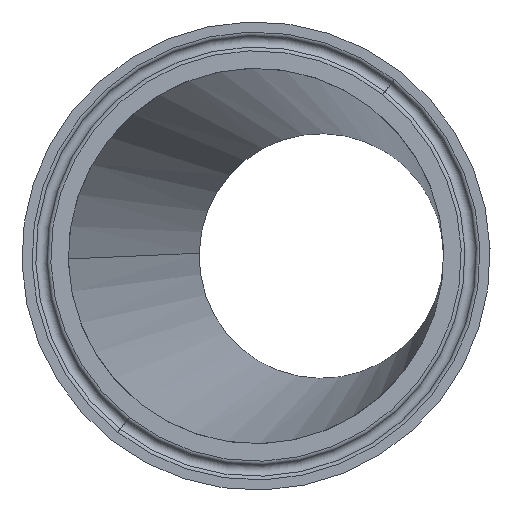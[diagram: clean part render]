
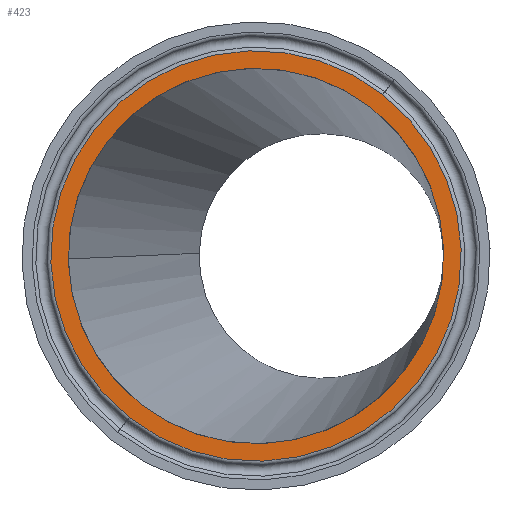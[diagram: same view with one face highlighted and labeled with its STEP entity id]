
A CAD part, left-side view. The second image highlights one B-rep face of the part: STEP entity #423.
In plain terms, the highlighted planar face has unit normal (-1, 0, 0) as drawn and (0, -1, 0) by its records, which use the part's own axes.
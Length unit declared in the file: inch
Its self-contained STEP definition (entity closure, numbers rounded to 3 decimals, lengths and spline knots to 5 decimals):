
#28 = AXIS2_PLACEMENT_3D ( 'NONE', #495, #73, #1026 ) ;
#61 = DIRECTION ( 'NONE',  ( 0., 0., -1. ) ) ;
#66 = DIRECTION ( 'NONE',  ( 0., 1., 0. ) ) ;
#73 = DIRECTION ( 'NONE',  ( 0., -1., 0. ) ) ;
#83 = DIRECTION ( 'NONE',  ( 0., 0., -1. ) ) ;
#91 = AXIS2_PLACEMENT_3D ( 'NONE', #444, #1319, #83 ) ;
#175 = CARTESIAN_POINT ( 'NONE',  ( 0., 0., -1.56892 ) ) ;
#249 = CARTESIAN_POINT ( 'NONE',  ( 0., 0., 0. ) ) ;
#283 = CARTESIAN_POINT ( 'NONE',  ( 0., 0., 0. ) ) ;
#319 = EDGE_CURVE ( 'NONE', #909, #510, #968, .T. ) ;
#423 = ADVANCED_FACE ( 'NONE', ( #914, #605 ), #1364, .F. ) ;
#444 = CARTESIAN_POINT ( 'NONE',  ( 0., 0., 0. ) ) ;
#446 = EDGE_CURVE ( 'NONE', #1028, #496, #806, .T. ) ;
#461 = ORIENTED_EDGE ( 'NONE', *, *, #446, .F. ) ;
#495 = CARTESIAN_POINT ( 'NONE',  ( 0., 0., 0. ) ) ;
#496 = VERTEX_POINT ( 'NONE', #1155 ) ;
#510 = VERTEX_POINT ( 'NONE', #175 ) ;
#561 = CARTESIAN_POINT ( 'NONE',  ( 0., 0., 1.435 ) ) ;
#605 = FACE_OUTER_BOUND ( 'NONE', #734, .T. ) ;
#618 = AXIS2_PLACEMENT_3D ( 'NONE', #283, #66, #694 ) ;
#624 = ORIENTED_EDGE ( 'NONE', *, *, #319, .T. ) ;
#636 = CIRCLE ( 'NONE', #753, 1.56892 ) ;
#643 = CARTESIAN_POINT ( 'NONE',  ( 0., 0., 1.56892 ) ) ;
#669 = DIRECTION ( 'NONE',  ( 0., -1., 0. ) ) ;
#683 = CIRCLE ( 'NONE', #91, 1.435 ) ;
#689 = AXIS2_PLACEMENT_3D ( 'NONE', #1144, #1353, #808 ) ;
#694 = DIRECTION ( 'NONE',  ( 0., 0., 1. ) ) ;
#734 = EDGE_LOOP ( 'NONE', ( #954, #624 ) ) ;
#753 = AXIS2_PLACEMENT_3D ( 'NONE', #249, #669, #61 ) ;
#806 = CIRCLE ( 'NONE', #28, 1.435 ) ;
#808 = DIRECTION ( 'NONE',  ( 0., 0., -1. ) ) ;
#890 = ORIENTED_EDGE ( 'NONE', *, *, #1316, .F. ) ;
#909 = VERTEX_POINT ( 'NONE', #643 ) ;
#914 = FACE_BOUND ( 'NONE', #1390, .T. ) ;
#954 = ORIENTED_EDGE ( 'NONE', *, *, #1123, .T. ) ;
#968 = CIRCLE ( 'NONE', #689, 1.56892 ) ;
#1026 = DIRECTION ( 'NONE',  ( 0., 0., -1. ) ) ;
#1028 = VERTEX_POINT ( 'NONE', #561 ) ;
#1123 = EDGE_CURVE ( 'NONE', #510, #909, #636, .T. ) ;
#1144 = CARTESIAN_POINT ( 'NONE',  ( 0., 0., 0. ) ) ;
#1155 = CARTESIAN_POINT ( 'NONE',  ( 0., 0., -1.435 ) ) ;
#1316 = EDGE_CURVE ( 'NONE', #496, #1028, #683, .T. ) ;
#1319 = DIRECTION ( 'NONE',  ( 0., -1., 0. ) ) ;
#1353 = DIRECTION ( 'NONE',  ( 0., -1., 0. ) ) ;
#1364 = PLANE ( 'NONE',  #618 ) ;
#1390 = EDGE_LOOP ( 'NONE', ( #890, #461 ) ) ;
